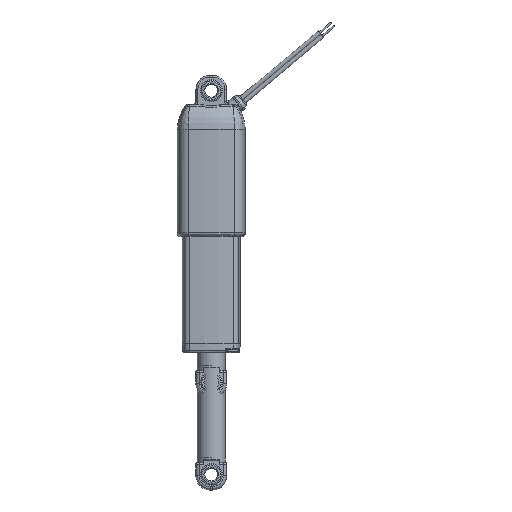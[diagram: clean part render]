
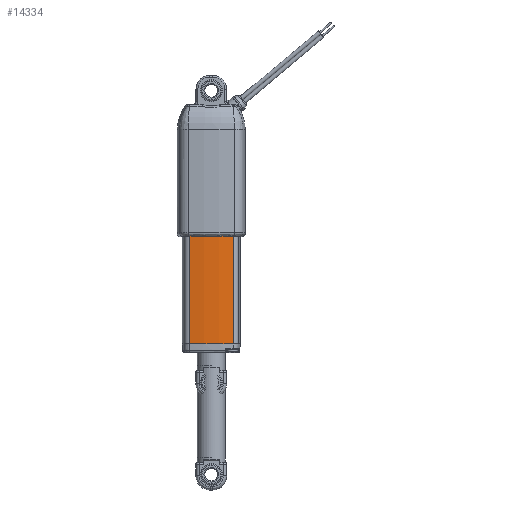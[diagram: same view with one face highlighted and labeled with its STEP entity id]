
A CAD part, front view. The second image highlights one B-rep face of the part: STEP entity #14334.
In plain terms, the highlighted cylindrical face has radius 48.4 mm (diameter 96.8 mm), a partial arc.
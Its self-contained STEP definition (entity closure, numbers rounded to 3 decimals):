
#137 = CARTESIAN_POINT ( 'NONE',  ( -7.236, -6.456, -44.8 ) ) ;
#689 = DIRECTION ( 'NONE',  ( -0.15, -0.989, 0. ) ) ;
#743 = EDGE_CURVE ( 'NONE', #24049, #21084, #23893, .T. ) ;
#1257 = ORIENTED_EDGE ( 'NONE', *, *, #25386, .F. ) ;
#2022 = CARTESIAN_POINT ( 'NONE',  ( 7.236, -6.456, -44.8 ) ) ;
#2237 = CIRCLE ( 'NONE', #15385, 48.4 ) ;
#2635 = EDGE_CURVE ( 'NONE', #7359, #21084, #20111, .T. ) ;
#4584 = DIRECTION ( 'NONE',  ( 0., 0., 1. ) ) ;
#4834 = VECTOR ( 'NONE', #4584, 1000. ) ;
#4980 = DIRECTION ( 'NONE',  ( 0.15, -0.989, 0. ) ) ;
#4992 = VERTEX_POINT ( 'NONE', #18002 ) ;
#5030 = DIRECTION ( 'NONE',  ( 1., 0., 0. ) ) ;
#5169 = CARTESIAN_POINT ( 'NONE',  ( 0., 41.4, -44.8 ) ) ;
#6611 = EDGE_CURVE ( 'NONE', #24049, #4992, #2237, .T. ) ;
#7038 = CARTESIAN_POINT ( 'NONE',  ( 0., 41.4, 18.7 ) ) ;
#7359 = VERTEX_POINT ( 'NONE', #23973 ) ;
#9502 = CARTESIAN_POINT ( 'NONE',  ( 7.236, -6.456, -44.8 ) ) ;
#13015 = LINE ( 'NONE', #137, #4834 ) ;
#14334 = ADVANCED_FACE ( 'NONE', ( #25140 ), #25829, .T. ) ;
#15385 = AXIS2_PLACEMENT_3D ( 'NONE', #5169, #18058, #4980 ) ;
#15710 = CARTESIAN_POINT ( 'NONE',  ( 0., 41.4, 0. ) ) ;
#15896 = DIRECTION ( 'NONE',  ( 0., 0., -1. ) ) ;
#16757 = AXIS2_PLACEMENT_3D ( 'NONE', #15710, #18108, #689 ) ;
#17686 = ORIENTED_EDGE ( 'NONE', *, *, #2635, .F. ) ;
#18002 = CARTESIAN_POINT ( 'NONE',  ( -7.236, -6.456, -44.8 ) ) ;
#18058 = DIRECTION ( 'NONE',  ( 0., 0., -1. ) ) ;
#18108 = DIRECTION ( 'NONE',  ( 0., 0., 1. ) ) ;
#19140 = ORIENTED_EDGE ( 'NONE', *, *, #6611, .F. ) ;
#20111 = CIRCLE ( 'NONE', #16757, 48.4 ) ;
#20428 = EDGE_LOOP ( 'NONE', ( #19140, #26916, #17686, #1257 ) ) ;
#21084 = VERTEX_POINT ( 'NONE', #22291 ) ;
#21709 = AXIS2_PLACEMENT_3D ( 'NONE', #7038, #15896, #5030 ) ;
#21846 = VECTOR ( 'NONE', #26922, 1000. ) ;
#22291 = CARTESIAN_POINT ( 'NONE',  ( 7.236, -6.456, 0. ) ) ;
#23893 = LINE ( 'NONE', #9502, #21846 ) ;
#23973 = CARTESIAN_POINT ( 'NONE',  ( -7.236, -6.456, 0. ) ) ;
#24049 = VERTEX_POINT ( 'NONE', #2022 ) ;
#25140 = FACE_OUTER_BOUND ( 'NONE', #20428, .T. ) ;
#25386 = EDGE_CURVE ( 'NONE', #4992, #7359, #13015, .T. ) ;
#25829 = CYLINDRICAL_SURFACE ( 'NONE', #21709, 48.4 ) ;
#26916 = ORIENTED_EDGE ( 'NONE', *, *, #743, .T. ) ;
#26922 = DIRECTION ( 'NONE',  ( 0., 0., 1. ) ) ;
